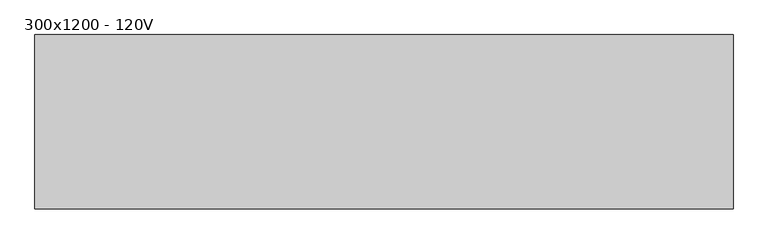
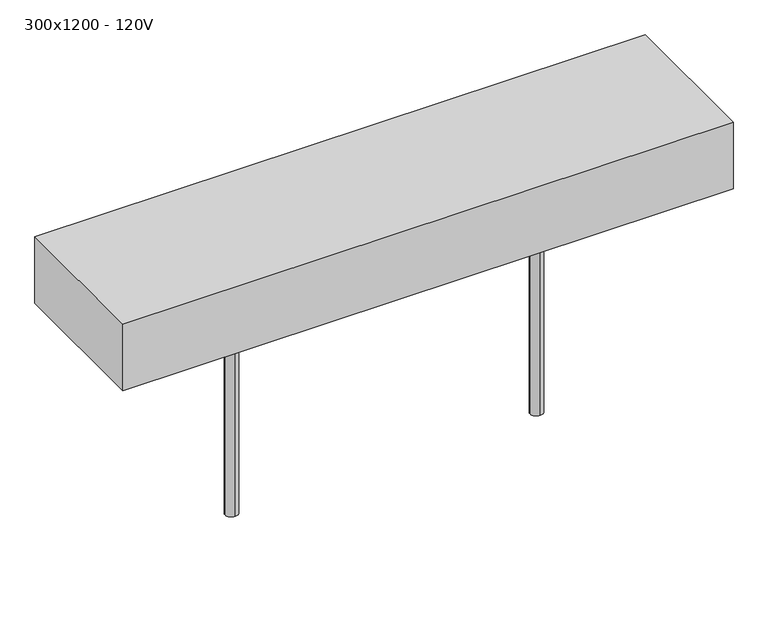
"""IFC4 building model written with IfcOpenShell, lengths in millimetres: light fixture geometry, M_吊式照明设备 : 300x1200 - 120V."""

from ifc_helpers import new_model, si_unit, point, frame, frame_2d, origin, origin_with_axes, place, context, project, spatial, polyline, circle_curve, trimmed, segment, composite_curve, outline, extrude, source, transform, mapped, element, save


def light_fixture_300x1200_120v_594f6578(model_context):
    return source(origin(), model_context, "Body", "SweptSolid", [
        extrude(outline(composite_curve([segment(trimmed(circle_curve(frame_2d((300.0, 101.6)), 12.7), [point((312.7, 101.6))], [point((300.0, 88.9))], False, "CARTESIAN"), True, "CONTINUOUS"), segment(trimmed(circle_curve(frame_2d((300.0, 101.6)), 12.7), [point((300.0, 88.9))], [point((287.3, 101.6))], False, "CARTESIAN"), True, "CONTINUOUS"), segment(trimmed(circle_curve(frame_2d((300.0, 101.6)), 12.7), [point((287.3, 101.6))], [point((300.0, 114.3))], False, "CARTESIAN"), True, "CONTINUOUS"), segment(trimmed(circle_curve(frame_2d((300.0, 101.6)), 12.7), [point((300.0, 114.3))], [point((312.7, 101.6))], False, "CARTESIAN"), True, "CONTINUOUS")], self_intersect=False)), origin_with_axes(), (0.0, 0.0, 1.0), 450.0),
        extrude(outline(composite_curve([segment(trimmed(circle_curve(frame_2d((900.0, 101.6)), 12.7), [point((912.7, 101.6))], [point((900.0, 88.9))], False, "CARTESIAN"), True, "CONTINUOUS"), segment(trimmed(circle_curve(frame_2d((900.0, 101.6)), 12.7), [point((900.0, 88.9))], [point((887.3, 101.6))], False, "CARTESIAN"), True, "CONTINUOUS"), segment(trimmed(circle_curve(frame_2d((900.0, 101.6)), 12.7), [point((887.3, 101.6))], [point((900.0, 114.3))], False, "CARTESIAN"), True, "CONTINUOUS"), segment(trimmed(circle_curve(frame_2d((900.0, 101.6)), 12.7), [point((900.0, 114.3))], [point((912.7, 101.6))], False, "CARTESIAN"), True, "CONTINUOUS")], self_intersect=False)), origin_with_axes(), (0.0, 0.0, 1.0), 450.0),
        extrude(outline(polyline([(1200.0, -48.4), (0.0, -48.4), (0.0, 251.6), (1200.0, 251.6), (1200.0, -48.4)])), frame((0.0, 0.0, 450.0), z_axis=(0.0, 0.0, 1.0), x_axis=(1.0, 0.0, 0.0)), (0.0, 0.0, 1.0), 137.5),
    ])


if __name__ == "__main__":
    model = new_model("IFC4")
    model_context = context("Model", 3, world=origin())
    ifc_project = project(units=[si_unit("LENGTHUNIT", "METRE", prefix="MILLI")], contexts=[model_context])
    site = spatial("IfcSite", under=ifc_project)
    building = spatial("IfcBuilding", under=site)
    placement = place(None, origin())
    light_fixture_300x1200_120v_shape = light_fixture_300x1200_120v_594f6578(model_context)
    element("IfcLightFixture", 1, ObjectType="M_吊式照明设备 : 300x1200 - 120V", at=placement, inside=building, context=model_context, shape_type="MappedRepresentation", body=[
        mapped(light_fixture_300x1200_120v_shape, transform((0.0, 0.0, 0.0), x_axis=(1.0, 0.0, 0.0), y_axis=(0.0, 1.0, 0.0), z_axis=(0.0, 0.0, 1.0))),
    ])
    save(model, "model.ifc")
